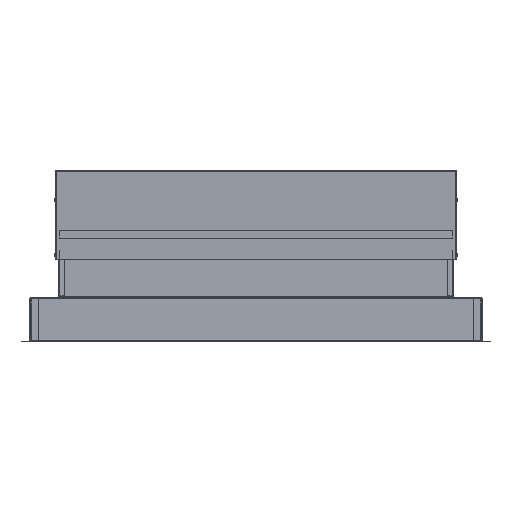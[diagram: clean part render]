
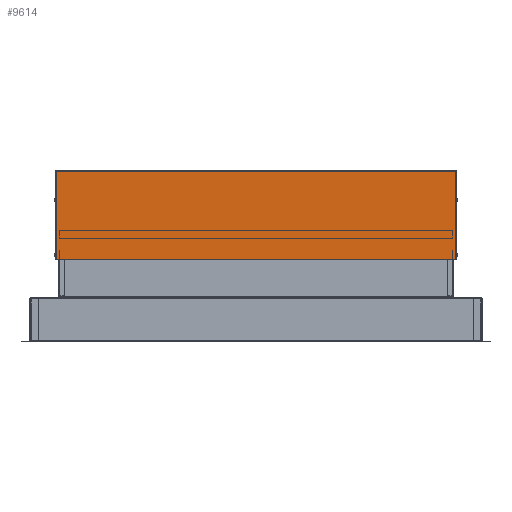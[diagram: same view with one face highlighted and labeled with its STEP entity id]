
A CAD part, front view. The second image highlights one B-rep face of the part: STEP entity #9614.
In plain terms, the highlighted planar face has unit normal (0, -1, -0.027) as drawn and (0, -1, 0) by its records, which use the part's own axes.
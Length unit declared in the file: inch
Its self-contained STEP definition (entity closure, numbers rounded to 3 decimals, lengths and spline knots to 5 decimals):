
#72 = DIRECTION ( 'NONE',  ( 1., 0., 0. ) ) ;
#363 = LINE ( 'NONE', #3803, #16324 ) ;
#1090 = CARTESIAN_POINT ( 'NONE',  ( 1.75751, -0.422, -17.97663 ) ) ;
#1613 = VECTOR ( 'NONE', #2488, 39.37008 ) ;
#1733 = CARTESIAN_POINT ( 'NONE',  ( 1.74508, -0.422, -17.97663 ) ) ;
#1862 = VERTEX_POINT ( 'NONE', #14688 ) ;
#1950 = LINE ( 'NONE', #3517, #20742 ) ;
#2470 = DIRECTION ( 'NONE',  ( -1., 0., 0. ) ) ;
#2488 = DIRECTION ( 'NONE',  ( 0., 0., -1. ) ) ;
#2997 = ORIENTED_EDGE ( 'NONE', *, *, #18554, .T. ) ;
#3517 = CARTESIAN_POINT ( 'NONE',  ( 9.68751, -0.422, -17.97663 ) ) ;
#3576 = VERTEX_POINT ( 'NONE', #1733 ) ;
#3803 = CARTESIAN_POINT ( 'NONE',  ( 9.68751, -0.422, 18.047 ) ) ;
#4200 = DIRECTION ( 'NONE',  ( -1., 0., 0. ) ) ;
#5168 = CARTESIAN_POINT ( 'NONE',  ( 1.75751, -0.422, -18.00013 ) ) ;
#5269 = VECTOR ( 'NONE', #16284, 39.37008 ) ;
#5509 = CARTESIAN_POINT ( 'NONE',  ( 1.74508, -0.422, 17.97663 ) ) ;
#6270 = LINE ( 'NONE', #12934, #5269 ) ;
#6560 = VERTEX_POINT ( 'NONE', #21347 ) ;
#6692 = ORIENTED_EDGE ( 'NONE', *, *, #18505, .T. ) ;
#6775 = EDGE_CURVE ( 'NONE', #3576, #19094, #1950, .T. ) ;
#6819 = CARTESIAN_POINT ( 'NONE',  ( 1.75751, -0.422, 18.00013 ) ) ;
#7433 = AXIS2_PLACEMENT_3D ( 'NONE', #17981, #14279, #9281 ) ;
#7648 = LINE ( 'NONE', #16005, #9180 ) ;
#8121 = EDGE_CURVE ( 'NONE', #1862, #13308, #19445, .T. ) ;
#9180 = VECTOR ( 'NONE', #10984, 39.37008 ) ;
#9228 = EDGE_CURVE ( 'NONE', #16798, #3576, #7648, .T. ) ;
#9250 = CARTESIAN_POINT ( 'NONE',  ( 1.75751, -0.422, -18.00013 ) ) ;
#9281 = DIRECTION ( 'NONE',  ( 1., 0., 0. ) ) ;
#9309 = CARTESIAN_POINT ( 'NONE',  ( 9.68751, -0.422, 18.00013 ) ) ;
#9427 = VECTOR ( 'NONE', #12474, 39.37008 ) ;
#9614 = ADVANCED_FACE ( 'NONE', ( #11171 ), #16196, .T. ) ;
#10179 = VECTOR ( 'NONE', #4200, 39.37008 ) ;
#10984 = DIRECTION ( 'NONE',  ( 0., 0., -1. ) ) ;
#11165 = ORIENTED_EDGE ( 'NONE', *, *, #15198, .F. ) ;
#11171 = FACE_OUTER_BOUND ( 'NONE', #13835, .T. ) ;
#11672 = ORIENTED_EDGE ( 'NONE', *, *, #8121, .T. ) ;
#12474 = DIRECTION ( 'NONE',  ( 1., 0., 0. ) ) ;
#12495 = LINE ( 'NONE', #12827, #1613 ) ;
#12827 = CARTESIAN_POINT ( 'NONE',  ( 1.75751, -0.422, 18.047 ) ) ;
#12934 = CARTESIAN_POINT ( 'NONE',  ( 1.75751, -0.422, 18.047 ) ) ;
#13308 = VERTEX_POINT ( 'NONE', #6819 ) ;
#13379 = ORIENTED_EDGE ( 'NONE', *, *, #9228, .T. ) ;
#13835 = EDGE_LOOP ( 'NONE', ( #6692, #13379, #16835, #14783, #2997, #11165, #11672, #17163 ) ) ;
#14242 = LINE ( 'NONE', #14353, #20445 ) ;
#14279 = DIRECTION ( 'NONE',  ( 0., -1., 0. ) ) ;
#14353 = CARTESIAN_POINT ( 'NONE',  ( 9.68751, -0.422, 17.97663 ) ) ;
#14688 = CARTESIAN_POINT ( 'NONE',  ( 9.68751, -0.422, 18.00013 ) ) ;
#14783 = ORIENTED_EDGE ( 'NONE', *, *, #16238, .T. ) ;
#15198 = EDGE_CURVE ( 'NONE', #1862, #19512, #363, .T. ) ;
#16005 = CARTESIAN_POINT ( 'NONE',  ( 1.74508, -0.422, 17.98 ) ) ;
#16196 = PLANE ( 'NONE',  #7433 ) ;
#16238 = EDGE_CURVE ( 'NONE', #19094, #19566, #12495, .T. ) ;
#16284 = DIRECTION ( 'NONE',  ( 0., 0., -1. ) ) ;
#16324 = VECTOR ( 'NONE', #17413, 39.37008 ) ;
#16798 = VERTEX_POINT ( 'NONE', #5509 ) ;
#16835 = ORIENTED_EDGE ( 'NONE', *, *, #6775, .T. ) ;
#17163 = ORIENTED_EDGE ( 'NONE', *, *, #20909, .T. ) ;
#17413 = DIRECTION ( 'NONE',  ( 0., 0., -1. ) ) ;
#17502 = LINE ( 'NONE', #9250, #9427 ) ;
#17789 = CARTESIAN_POINT ( 'NONE',  ( 9.68751, -0.422, -18.00013 ) ) ;
#17981 = CARTESIAN_POINT ( 'NONE',  ( 9.68751, -0.422, 18.047 ) ) ;
#18505 = EDGE_CURVE ( 'NONE', #6560, #16798, #14242, .T. ) ;
#18554 = EDGE_CURVE ( 'NONE', #19566, #19512, #17502, .T. ) ;
#19094 = VERTEX_POINT ( 'NONE', #1090 ) ;
#19445 = LINE ( 'NONE', #9309, #10179 ) ;
#19512 = VERTEX_POINT ( 'NONE', #17789 ) ;
#19566 = VERTEX_POINT ( 'NONE', #5168 ) ;
#20445 = VECTOR ( 'NONE', #2470, 39.37008 ) ;
#20742 = VECTOR ( 'NONE', #72, 39.37008 ) ;
#20909 = EDGE_CURVE ( 'NONE', #13308, #6560, #6270, .T. ) ;
#21347 = CARTESIAN_POINT ( 'NONE',  ( 1.75751, -0.422, 17.97663 ) ) ;
